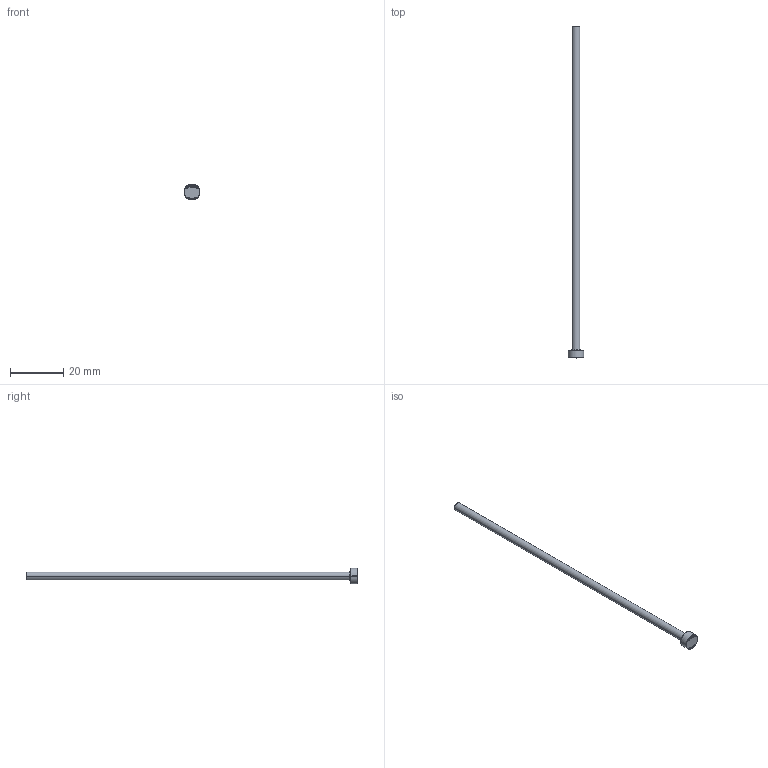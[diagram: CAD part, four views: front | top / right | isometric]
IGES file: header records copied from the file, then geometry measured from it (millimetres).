
Start section: SolidWorks IGES file using analytic representation for surfaces
Global section: file name: C:\Users\User\Downloads\Matripeça 31-08 tar\PB - PINO EXTRATOR TIPO _B_ (CATÁLOGO)\PB03,0\PB03,0125.IGS; native system: SolidWorks 2024; preprocessor: SolidWorks 2024; author: User; date: 260901.141406; units: millimetre
Bounding box: 6 x 125 x 6 mm (x, y, z)
Surface area: 1266.5 mm2 (no closed solid volume)
Topology: 0 solids, 0 shells, 405 faces, 3224 edges, 3224 vertices
Faces by surface type: bspline 391, revolution 14
